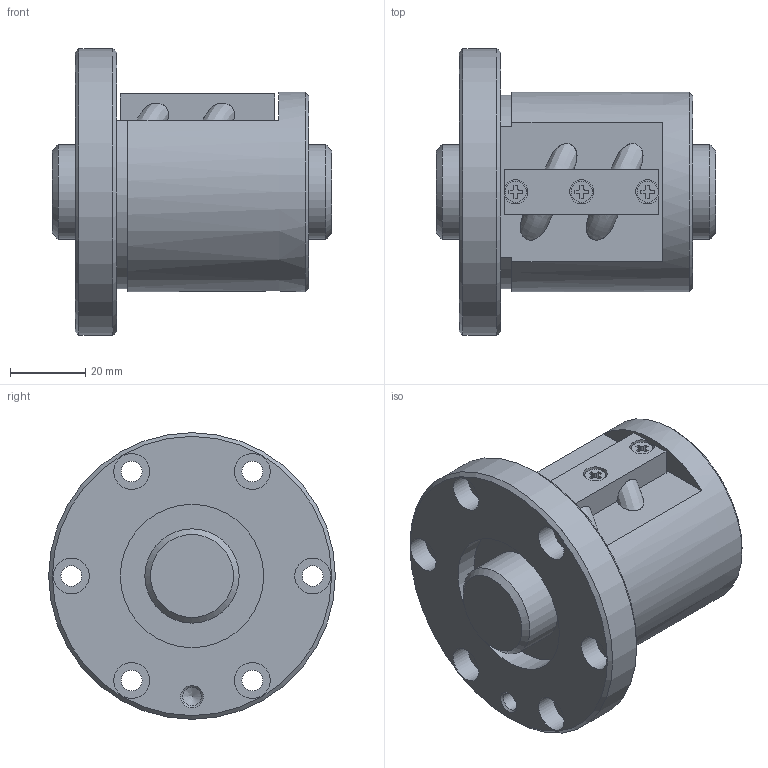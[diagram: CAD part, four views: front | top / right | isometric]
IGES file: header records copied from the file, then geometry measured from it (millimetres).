
Start section: Data from Parasolid IGES Translator 26.0.171, Copyright(c) 2006 Siemens PLM Software. All Rights Reserved.
Global section: file name: SBN2506V-5G0+74LC0(0000).igs; native system: By Siemens PLM Incorporated; preprocessor: XPlus GENERIC/IGES 26.0.171; author: Noname; organization: Noname; date: 20240528.102435; units: millimetre
Bounding box: 74 x 76 x 76 mm (x, y, z)
Surface area: 33708.1 mm2 (no closed solid volume)
Topology: 0 solids, 0 shells, 124 faces, 595 edges, 548 vertices
Faces by surface type: extrusion 69, revolution 55
